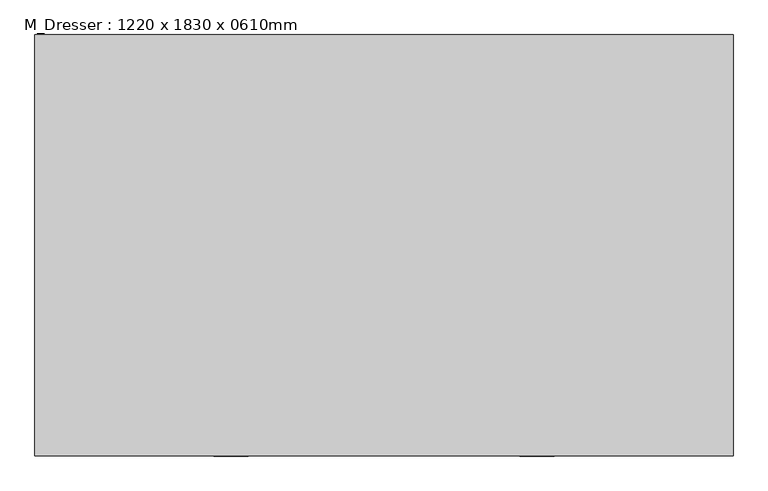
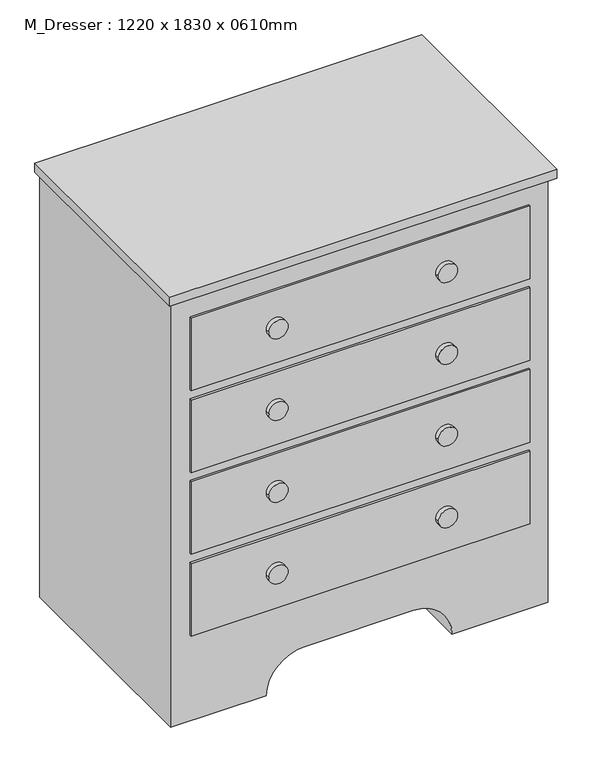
"""IFC4 building model written with IfcOpenShell, lengths in millimetres: furniture geometry, M_Dresser : 1220 x 1830 x 0610mm."""

from ifc_helpers import new_model, si_unit, point, frame, frame_2d, origin, place, context, project, spatial, polyline, circle_curve, trimmed, segment, composite_curve, outline, extrude, source, transform, mapped, element, save


def m_dresser_1220_x_1830_x_0610mm_5f1639cd(model_context):
    return source(origin(), model_context, "Body", "SweptSolid", [
        extrude(outline(polyline([(243.5067402, -63.1629541), (243.5067402, -682.2129541), (-781.8932598, -682.2129541), (-781.8932598, -63.1629541), (243.5067402, -63.1629541)])), frame((0.0, 0.0, 1194.6), z_axis=(0.0, 0.0, 1.0), x_axis=(1.0, 0.0, 0.0)), (0.0, 0.0, 1.0), 25.4),
        extrude(outline(composite_curve([segment(polyline([(0.0, 230.8067402), (1194.6, 230.8067402), (1194.6, -769.1932598), (0.0, -769.1932598), (0.0, -515.1932598)]), True, "CONTINUOUS"), segment(trimmed(circle_curve(frame_2d((0.0, -413.5932598)), 101.6), [point((0.0, -515.1932598))], [point((101.6, -413.5932598))], True, "CARTESIAN"), True, "CONTINUOUS"), segment(polyline([(101.6, -413.5932598), (101.6, -124.7932598)]), True, "CONTINUOUS"), segment(trimmed(circle_curve(frame_2d((0.0, -124.7932598)), 101.6), [point((101.6, -124.7932598))], [point((0.0, -23.1932598))], True, "CARTESIAN"), True, "CONTINUOUS"), segment(polyline([(0.0, -23.1932598), (0.0, 230.8067402)]), True, "CONTINUOUS")], self_intersect=False)), frame((0.0, -663.1629541, 0.0), z_axis=(0.0, 1.0, 0.0), x_axis=(0.0, 0.0, 1.0)), (0.0, 0.0, 1.0), 600.0),
        extrude(outline(composite_curve([segment(trimmed(circle_curve(frame_2d((1029.4, -44.5932598)), 25.4), [point((1029.4, -69.9932598))], [point((1029.4, -19.1932598))], False, "CARTESIAN"), True, "CONTINUOUS"), segment(trimmed(circle_curve(frame_2d((1029.4, -44.5932598)), 25.4), [point((1029.4, -19.1932598))], [point((1029.4, -69.9932598))], False, "CARTESIAN"), True, "CONTINUOUS")], self_intersect=False)), frame((0.0, -682.2129541, 0.0), z_axis=(0.0, 1.0, 0.0), x_axis=(0.0, 0.0, 1.0)), (0.0, 0.0, 1.0), 12.7),
        extrude(outline(composite_curve([segment(trimmed(circle_curve(frame_2d((800.6, -44.5932598)), 25.4), [point((800.6, -69.9932598))], [point((800.6, -19.1932598))], False, "CARTESIAN"), True, "CONTINUOUS"), segment(trimmed(circle_curve(frame_2d((800.6, -44.5932598)), 25.4), [point((800.6, -19.1932598))], [point((800.6, -69.9932598))], False, "CARTESIAN"), True, "CONTINUOUS")], self_intersect=False)), frame((0.0, -682.2129541, 0.0), z_axis=(0.0, 1.0, 0.0), x_axis=(0.0, 0.0, 1.0)), (0.0, 0.0, 1.0), 12.7),
        extrude(outline(composite_curve([segment(trimmed(circle_curve(frame_2d((571.8, -44.5932598)), 25.4), [point((571.8, -69.9932598))], [point((571.8, -19.1932598))], False, "CARTESIAN"), True, "CONTINUOUS"), segment(trimmed(circle_curve(frame_2d((571.8, -44.5932598)), 25.4), [point((571.8, -19.1932598))], [point((571.8, -69.9932598))], False, "CARTESIAN"), True, "CONTINUOUS")], self_intersect=False)), frame((0.0, -682.2129541, 0.0), z_axis=(0.0, 1.0, 0.0), x_axis=(0.0, 0.0, 1.0)), (0.0, 0.0, 1.0), 12.7),
        extrude(outline(composite_curve([segment(trimmed(circle_curve(frame_2d((343.0, -44.5932598)), 25.4), [point((343.0, -69.9932598))], [point((343.0, -19.1932598))], False, "CARTESIAN"), True, "CONTINUOUS"), segment(trimmed(circle_curve(frame_2d((343.0, -44.5932598)), 25.4), [point((343.0, -19.1932598))], [point((343.0, -69.9932598))], False, "CARTESIAN"), True, "CONTINUOUS")], self_intersect=False)), frame((0.0, -682.2129541, 0.0), z_axis=(0.0, 1.0, 0.0), x_axis=(0.0, 0.0, 1.0)), (0.0, 0.0, 1.0), 12.7),
        extrude(outline(composite_curve([segment(trimmed(circle_curve(frame_2d((343.0, -493.7932598)), 25.4), [point((343.0, -519.1932598))], [point((343.0, -468.3932598))], False, "CARTESIAN"), True, "CONTINUOUS"), segment(trimmed(circle_curve(frame_2d((343.0, -493.7932598)), 25.4), [point((343.0, -468.3932598))], [point((343.0, -519.1932598))], False, "CARTESIAN"), True, "CONTINUOUS")], self_intersect=False)), frame((0.0, -682.2129541, 0.0), z_axis=(0.0, 1.0, 0.0), x_axis=(0.0, 0.0, 1.0)), (0.0, 0.0, 1.0), 12.7),
        extrude(outline(composite_curve([segment(trimmed(circle_curve(frame_2d((571.8, -493.7932598)), 25.4), [point((571.8, -519.1932598))], [point((571.8, -468.3932598))], False, "CARTESIAN"), True, "CONTINUOUS"), segment(trimmed(circle_curve(frame_2d((571.8, -493.7932598)), 25.4), [point((571.8, -468.3932598))], [point((571.8, -519.1932598))], False, "CARTESIAN"), True, "CONTINUOUS")], self_intersect=False)), frame((0.0, -682.2129541, 0.0), z_axis=(0.0, 1.0, 0.0), x_axis=(0.0, 0.0, 1.0)), (0.0, 0.0, 1.0), 12.7),
        extrude(outline(composite_curve([segment(trimmed(circle_curve(frame_2d((800.6, -493.7932598)), 25.4), [point((800.6, -519.1932598))], [point((800.6, -468.3932598))], False, "CARTESIAN"), True, "CONTINUOUS"), segment(trimmed(circle_curve(frame_2d((800.6, -493.7932598)), 25.4), [point((800.6, -468.3932598))], [point((800.6, -519.1932598))], False, "CARTESIAN"), True, "CONTINUOUS")], self_intersect=False)), frame((0.0, -682.2129541, 0.0), z_axis=(0.0, 1.0, 0.0), x_axis=(0.0, 0.0, 1.0)), (0.0, 0.0, 1.0), 12.7),
        extrude(outline(composite_curve([segment(trimmed(circle_curve(frame_2d((1029.4, -493.7932598)), 25.4), [point((1029.4, -519.1932598))], [point((1029.4, -468.3932598))], False, "CARTESIAN"), True, "CONTINUOUS"), segment(trimmed(circle_curve(frame_2d((1029.4, -493.7932598)), 25.4), [point((1029.4, -468.3932598))], [point((1029.4, -519.1932598))], False, "CARTESIAN"), True, "CONTINUOUS")], self_intersect=False)), frame((0.0, -682.2129541, 0.0), z_axis=(0.0, 1.0, 0.0), x_axis=(0.0, 0.0, 1.0)), (0.0, 0.0, 1.0), 12.7),
        extrude(outline(polyline([(180.0067402, -669.5129541), (-718.3932598, -669.5129541), (-718.3932598, -663.1629541), (180.0067402, -663.1629541), (180.0067402, -669.5129541)])), frame((0.0, 0.0, 927.7), z_axis=(0.0, 0.0, 1.0), x_axis=(1.0, 0.0, 0.0)), (0.0, 0.0, 1.0), 203.4),
        extrude(outline(polyline([(180.0067402, -669.5129541), (-718.3932598, -669.5129541), (-718.3932598, -663.1629541), (180.0067402, -663.1629541), (180.0067402, -669.5129541)])), frame((0.0, 0.0, 698.9), z_axis=(0.0, 0.0, 1.0), x_axis=(1.0, 0.0, 0.0)), (0.0, 0.0, 1.0), 203.4),
        extrude(outline(polyline([(180.0067402, -669.5129541), (-718.3932598, -669.5129541), (-718.3932598, -663.1629541), (180.0067402, -663.1629541), (180.0067402, -669.5129541)])), frame((0.0, 0.0, 470.1), z_axis=(0.0, 0.0, 1.0), x_axis=(1.0, 0.0, 0.0)), (0.0, 0.0, 1.0), 203.4),
        extrude(outline(polyline([(180.0067402, -669.5129541), (-718.3932598, -669.5129541), (-718.3932598, -663.1629541), (180.0067402, -663.1629541), (180.0067402, -669.5129541)])), frame((0.0, 0.0, 241.3), z_axis=(0.0, 0.0, 1.0), x_axis=(1.0, 0.0, 0.0)), (0.0, 0.0, 1.0), 203.4),
    ])


if __name__ == "__main__":
    model = new_model("IFC4")
    model_context = context("Model", 3, world=origin())
    ifc_project = project(units=[si_unit("LENGTHUNIT", "METRE", prefix="MILLI")], contexts=[model_context])
    site = spatial("IfcSite", under=ifc_project)
    building = spatial("IfcBuilding", under=site)
    placement = place(None, origin())
    m_dresser_1220_x_1830_x_0610mm_shape = m_dresser_1220_x_1830_x_0610mm_5f1639cd(model_context)
    element("IfcFurniture", 1, ObjectType="M_Dresser : 1220 x 1830 x 0610mm", at=placement, inside=building, context=model_context, shape_type="MappedRepresentation", body=[
        mapped(m_dresser_1220_x_1830_x_0610mm_shape, transform((0.0, 0.0, 0.0), x_axis=(1.0, 0.0, 0.0), y_axis=(0.0, 1.0, 0.0), z_axis=(0.0, 0.0, 1.0))),
    ])
    save(model, "model.ifc")
